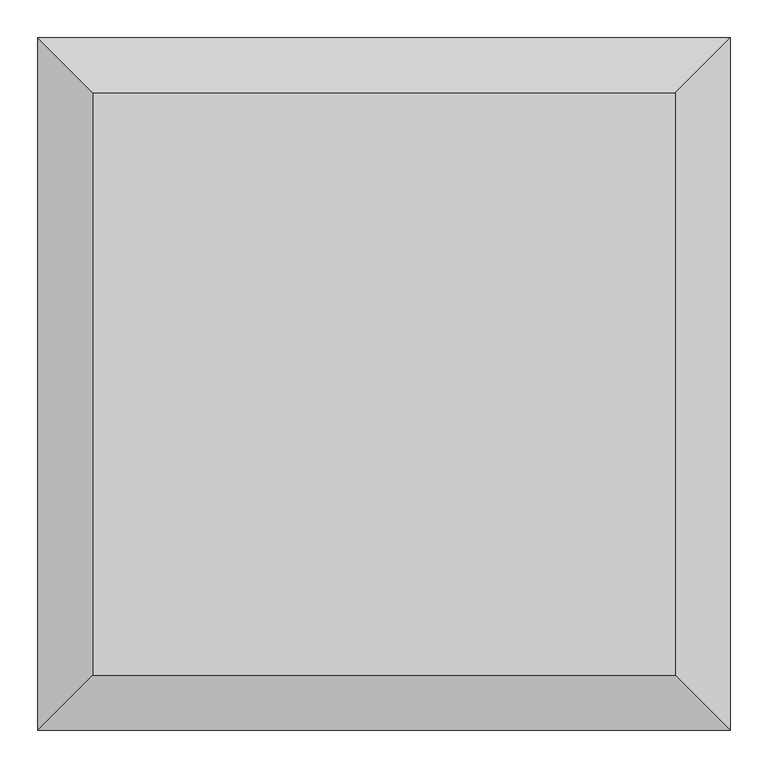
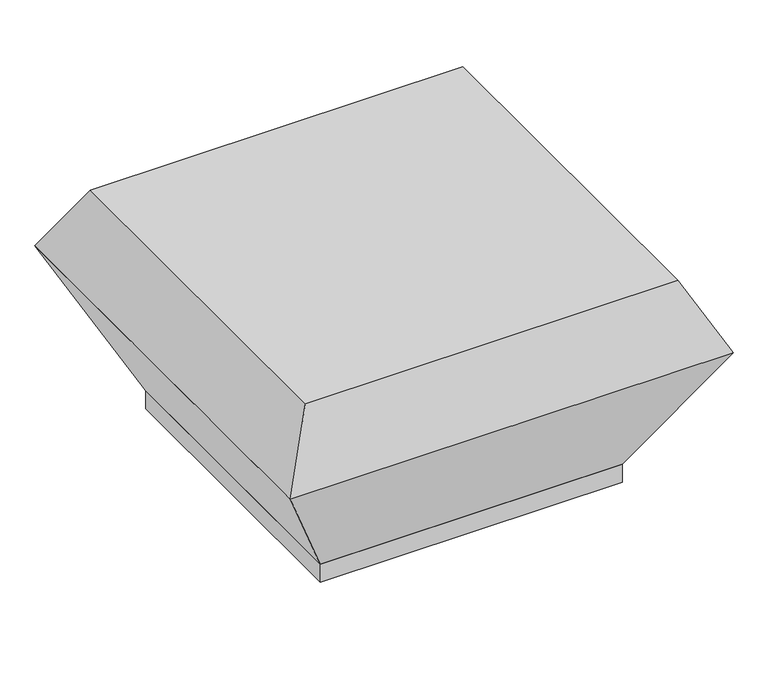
"""IFC4 building model written with IfcOpenShell, lengths in millimetres: proxy geometry."""

from ifc_helpers import new_model, si_unit, origin, origin_with_axes, place, context, project, spatial, polyline, outline, extrude, faceted_brep, source, transform, mapped, element, save


def mechanical_equipment_ddfa0483(model_context):
    return source(origin(), model_context, "Body", "SolidModel", [
        faceted_brep([(-461.5, -461.5, 322.6666667), (-461.5, 461.5, 322.6666667), (461.5, 461.5, 322.6666667), (461.5, -461.5, 322.6666667), (-388.25, -388.25, 464.0), (388.25, -388.25, 464.0), (388.25, 388.25, 464.0), (-388.25, 388.25, 464.0)], [[[0, 1, 2, 3]], [[4, 5, 6, 7]], [[5, 4, 0, 3]], [[6, 5, 3, 2]], [[7, 6, 2, 1]], [[4, 7, 1, 0]]]),
        faceted_brep([(461.5, 461.5, 322.6666667), (-461.5, 461.5, 322.6666667), (-461.5, -461.5, 322.6666667), (461.5, -461.5, 322.6666667), (315.0, 315.0, 40.0), (315.0, -315.0, 40.0), (-315.0, -315.0, 40.0), (-315.0, 315.0, 40.0)], [[[0, 1, 2, 3]], [[4, 5, 6, 7]], [[4, 7, 1, 0]], [[7, 6, 2, 1]], [[6, 5, 3, 2]], [[5, 4, 0, 3]]]),
        extrude(outline(polyline([(-315.0, -315.0), (-315.0, 315.0), (315.0, 315.0), (315.0, -315.0), (-315.0, -315.0)])), origin_with_axes(), (0.0, 0.0, 1.0), 40.0),
    ])


if __name__ == "__main__":
    model = new_model("IFC4")
    model_context = context("Model", 3, world=origin())
    ifc_project = project(units=[si_unit("LENGTHUNIT", "METRE", prefix="MILLI")], contexts=[model_context])
    site = spatial("IfcSite", under=ifc_project)
    building = spatial("IfcBuilding", under=site)
    placement = place(None, origin())
    mechanical_equipment_shape = mechanical_equipment_ddfa0483(model_context)
    element("IfcBuildingElementProxy", 1, Name="Mechanical Equipment", at=placement, inside=building, context=model_context, shape_type="MappedRepresentation", body=[
        mapped(mechanical_equipment_shape, transform((0.0, 0.0, 0.0), x_axis=(1.0, 0.0, 0.0), y_axis=(0.0, 1.0, 0.0), z_axis=(0.0, 0.0, 1.0))),
    ])
    save(model, "model.ifc")
